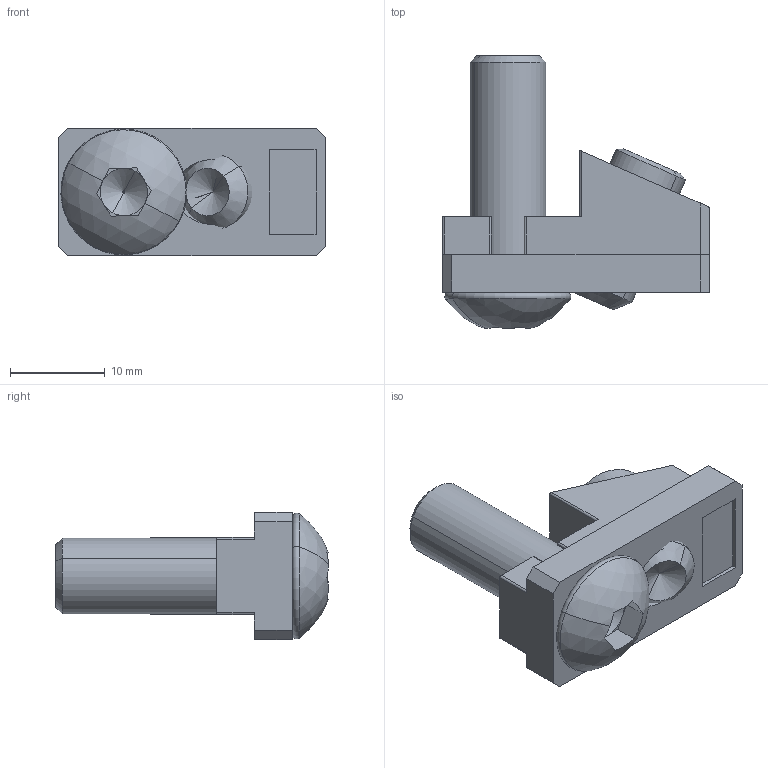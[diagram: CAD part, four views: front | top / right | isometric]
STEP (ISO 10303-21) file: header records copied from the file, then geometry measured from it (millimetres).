
FILE_DESCRIPTION (( 'STEP AP214' ), '1' );
FILE_NAME ('1.3002 Pikakiinnike 45 kevyt.STEP', '2025-09-08T08:17:11', ( '' ), ( '' ), 'SwSTEP 2.0', 'SolidWorks 2025', '' );
FILE_SCHEMA (( 'AUTOMOTIVE_DESIGN' ));
Length unit declared in the file: millimetre
Products named in the file (1): 1.3002 Pikakiinnike 45 kevyt
Bounding box: 28.2 x 28.8 x 13.5 mm (x, y, z)
Volume: 4182.6 mm3; surface area: 3357 mm2
Topology: 3 solids, 3 shells, 82 faces, 209 edges, 133 vertices
Faces by surface type: plane 49, cylinder 19, cone 10, torus 2, sphere 2
Entity records: 2508 total; most frequent: CARTESIAN_POINT 441, DIRECTION 435, ORIENTED_EDGE 414, EDGE_CURVE 207, AXIS2_PLACEMENT_3D 151, LINE 133, VERTEX_POINT 133, VECTOR 133
